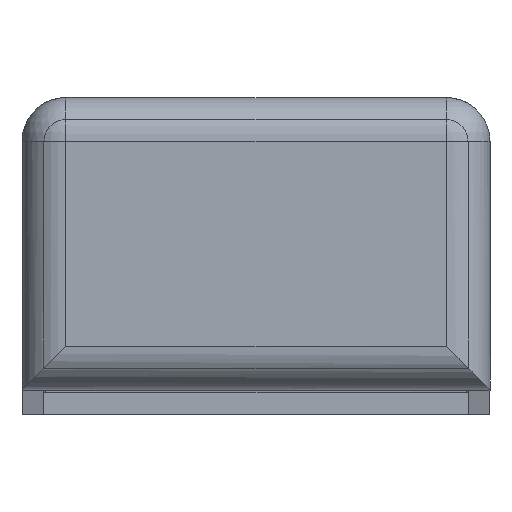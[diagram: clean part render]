
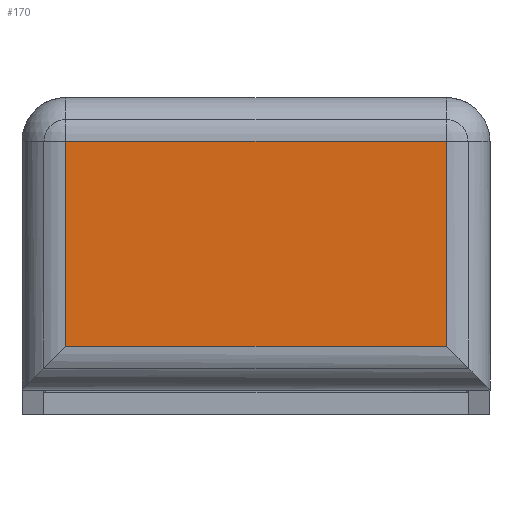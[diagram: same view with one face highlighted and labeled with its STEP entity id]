
A CAD part, top view. The second image highlights one B-rep face of the part: STEP entity #170.
In plain terms, the highlighted planar face has unit normal (0, 0, 1).
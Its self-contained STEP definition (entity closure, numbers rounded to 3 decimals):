
#27 = AXIS2_PLACEMENT_3D ( 'NONE', #368, #369, #370 ) ;
#31 = FACE_OUTER_BOUND ( 'NONE', #1054, .T. ) ;
#33 = VECTOR ( 'NONE', #355, 1000. ) ;
#35 = VECTOR ( 'NONE', #352, 1000. ) ;
#37 = VECTOR ( 'NONE', #349, 1000. ) ;
#38 = VECTOR ( 'NONE', #346, 1000. ) ;
#163 = EDGE_CURVE ( 'NONE', #952, #953, #344, .T. ) ;
#164 = EDGE_CURVE ( 'NONE', #951, #952, #347, .T. ) ;
#165 = EDGE_CURVE ( 'NONE', #953, #954, #350, .T. ) ;
#166 = EDGE_CURVE ( 'NONE', #954, #951, #353, .T. ) ;
#170 = ADVANCED_FACE ( 'NONE', ( #31 ), #367, .T. ) ;
#344 = LINE ( 'NONE', #345, #38 ) ;
#345 = CARTESIAN_POINT ( 'NONE',  ( -16., -3., 482. ) ) ;
#346 = DIRECTION ( 'NONE',  ( -1., 0., 0. ) ) ;
#347 = LINE ( 'NONE', #348, #37 ) ;
#348 = CARTESIAN_POINT ( 'NONE',  ( 13., -20., 482. ) ) ;
#349 = DIRECTION ( 'NONE',  ( 0., 1., 0. ) ) ;
#350 = LINE ( 'NONE', #351, #35 ) ;
#351 = CARTESIAN_POINT ( 'NONE',  ( -13., -20., 482. ) ) ;
#352 = DIRECTION ( 'NONE',  ( 0., -1., 0. ) ) ;
#353 = LINE ( 'NONE', #354, #33 ) ;
#354 = CARTESIAN_POINT ( 'NONE',  ( 16., -17., 482. ) ) ;
#355 = DIRECTION ( 'NONE',  ( 1., 0., 0. ) ) ;
#367 = PLANE ( 'NONE',  #27 ) ;
#368 = CARTESIAN_POINT ( 'NONE',  ( -16., -20., 482. ) ) ;
#369 = DIRECTION ( 'NONE',  ( 0., 0., 1. ) ) ;
#370 = DIRECTION ( 'NONE',  ( 1., 0., 0. ) ) ;
#677 = CARTESIAN_POINT ( 'NONE',  ( 13., -17., 482. ) ) ;
#678 = CARTESIAN_POINT ( 'NONE',  ( 13., -3., 482. ) ) ;
#679 = CARTESIAN_POINT ( 'NONE',  ( -13., -3., 482. ) ) ;
#680 = CARTESIAN_POINT ( 'NONE',  ( -13., -17., 482. ) ) ;
#951 = VERTEX_POINT ( 'NONE', #677 ) ;
#952 = VERTEX_POINT ( 'NONE', #678 ) ;
#953 = VERTEX_POINT ( 'NONE', #679 ) ;
#954 = VERTEX_POINT ( 'NONE', #680 ) ;
#1054 = EDGE_LOOP ( 'NONE', ( #1077, #1079, #1078, #1080 ) ) ;
#1077 = ORIENTED_EDGE ( 'NONE', *, *, #164, .T. ) ;
#1078 = ORIENTED_EDGE ( 'NONE', *, *, #165, .T. ) ;
#1079 = ORIENTED_EDGE ( 'NONE', *, *, #163, .T. ) ;
#1080 = ORIENTED_EDGE ( 'NONE', *, *, #166, .T. ) ;
